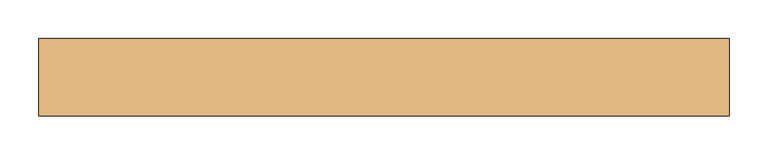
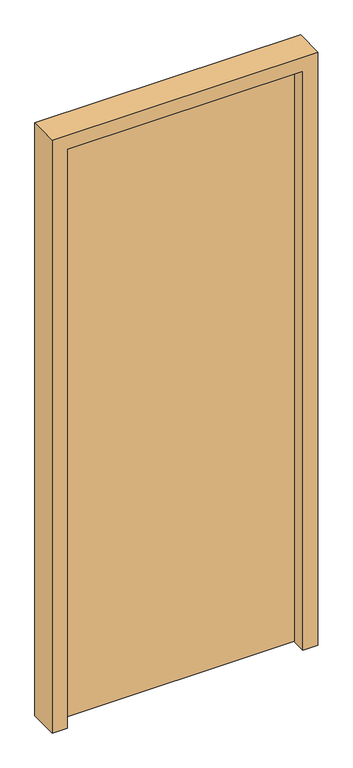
"""IFC4 building model written with IfcOpenShell, lengths in millimetres: door geometry, (Dr)_ДУ(распашная)_1Ст_Прямоугольная : (Нр)_ДГ(0.89х2.1(h))."""

from ifc_helpers import new_model, si_unit, frame, origin, origin_with_axes, place, context, project, spatial, polyline, outline, extrude, source, transform, mapped, element, save


def door_2d09e85e(model_context):
    return source(origin(), model_context, "Body", "SweptSolid", [
        extrude(outline(polyline([(-395.0, 90.0), (395.0, 90.0), (395.0, 40.0), (-395.0, 40.0), (-395.0, 90.0)])), origin_with_axes(), (0.0, 0.0, 1.0), 2050.0),
        extrude(outline(polyline([(0.0, -445.0), (0.0, -395.0), (2050.0, -395.0), (2050.0, 395.0), (0.0, 395.0), (0.0, 445.0), (2100.0, 445.0), (2100.0, -445.0), (0.0, -445.0)])), frame((0.0, -10.0, 0.0), z_axis=(0.0, 1.0, 0.0), x_axis=(0.0, 0.0, 1.0)), (0.0, 0.0, 1.0), 100.0),
    ])


if __name__ == "__main__":
    model = new_model("IFC4")
    model_context = context("Model", 3, world=origin())
    ifc_project = project(units=[si_unit("LENGTHUNIT", "METRE", prefix="MILLI")], contexts=[model_context])
    site = spatial("IfcSite", under=ifc_project)
    building = spatial("IfcBuilding", under=site)
    placement = place(None, origin())
    door_shape = door_2d09e85e(model_context)
    element("IfcDoor", 1, ObjectType="(Dr)_ДУ(распашная)_1Ст_Прямоугольная : (Нр)_ДГ(0.89х2.1(h))", at=placement, inside=building, context=model_context, shape_type="MappedRepresentation", body=[
        mapped(door_shape, transform((0.0, 0.0, 0.0), x_axis=(1.0, 0.0, 0.0), y_axis=(0.0, 1.0, 0.0), z_axis=(0.0, 0.0, 1.0))),
    ])
    save(model, "model.ifc")
